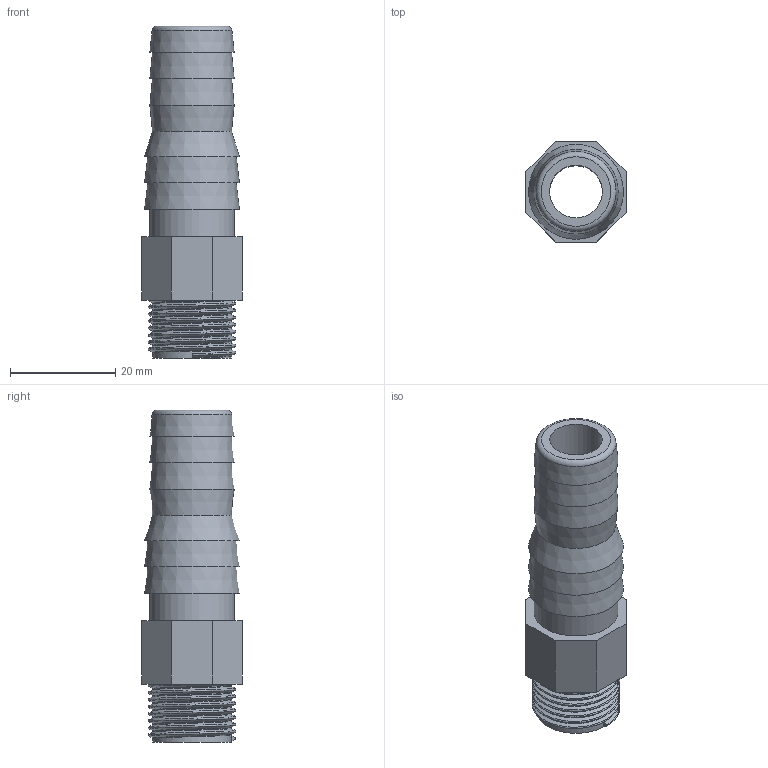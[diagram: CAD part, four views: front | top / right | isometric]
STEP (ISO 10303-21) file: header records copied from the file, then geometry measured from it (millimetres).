
FILE_DESCRIPTION(/* description */ ('PVC portagomma filettato BSP maschio'),/* implementation_level */ '2;1');
FILE_NAME(/* name */ 'C:\Users\POLYPIPE\Desktop\DATASET INVENTOR\LIBRERIA EFFAST\RACCORDI 3DxWEB\RER\3D_RERPGE\3D_RERPGE016A.stp',/* time_stamp */ '2018-01-19T16:50:14+01:00',/* author */ ('POLYPIPE'),/* organization */ ('Polypipe Italia s.r.l.'),/* preprocessor_version */ 'ST-DEVELOPER v16.1',/* originating_system */ 'Autodesk Inventor 2016',/* authorisation */ '');
FILE_SCHEMA (('CONFIG_CONTROL_DESIGN'));
Length unit declared in the file: millimetre
Products named in the file (1): 3D_RERPGE016A
Bounding box: 19 x 19 x 63 mm (x, y, z)
Volume: 9008.5 mm3; surface area: 6243.5 mm2
Topology: 1 solids, 1 shells, 34 faces, 71 edges, 45 vertices
Faces by surface type: plane 17, cone 8, bspline 5, cylinder 3, torus 1
Full cylindrical faces by diameter (mm): 10 x1, 14.95 x1, 16 x1
Entity records: 4016 total; most frequent: CARTESIAN_POINT 3327, DIRECTION 129, ORIENTED_EDGE 118, EDGE_CURVE 59, EDGE_LOOP 53, AXIS2_PLACEMENT_3D 51, VERTEX_POINT 44, FACE_OUTER_BOUND 34
